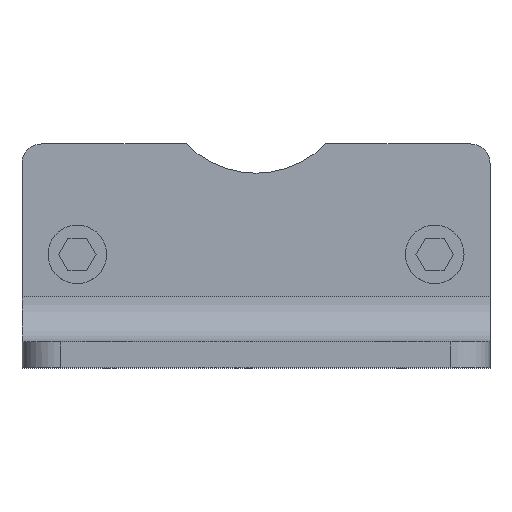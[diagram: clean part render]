
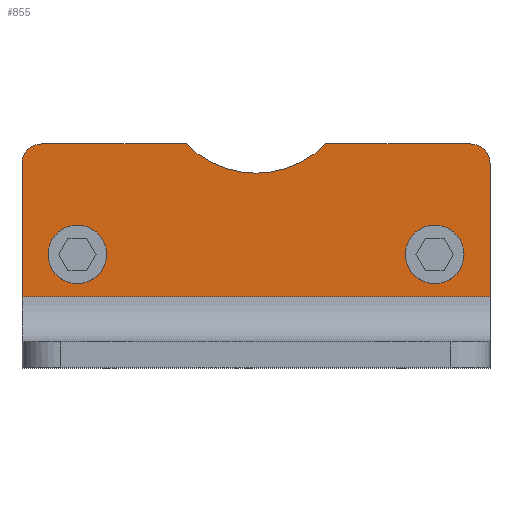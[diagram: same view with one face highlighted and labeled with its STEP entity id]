
A CAD part, top view. The second image highlights one B-rep face of the part: STEP entity #855.
In plain terms, the highlighted planar face has unit normal (0, 0, 1).
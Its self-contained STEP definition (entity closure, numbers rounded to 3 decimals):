
#17=DIRECTION('',(0.,-1.,0.));
#18=VECTOR('',#17,41.);
#19=CARTESIAN_POINT('',(-72.,-27.,8.));
#20=LINE('',#19,#18);
#117=CARTESIAN_POINT('',(55.,-55.,8.));
#118=DIRECTION('',(0.,0.,1.));
#119=DIRECTION('',(-1.,0.,0.));
#120=AXIS2_PLACEMENT_3D('',#117,#118,#119);
#122=CARTESIAN_POINT('',(55.,-55.,8.));
#123=DIRECTION('',(0.,0.,1.));
#124=DIRECTION('',(1.,0.,0.));
#125=AXIS2_PLACEMENT_3D('',#122,#123,#124);
#127=CARTESIAN_POINT('',(-55.,-55.,8.));
#128=DIRECTION('',(0.,0.,-1.));
#129=DIRECTION('',(0.,-1.,0.));
#130=AXIS2_PLACEMENT_3D('',#127,#128,#129);
#132=CARTESIAN_POINT('',(-55.,-55.,8.));
#133=DIRECTION('',(0.,0.,-1.));
#134=DIRECTION('',(0.,1.,0.));
#135=AXIS2_PLACEMENT_3D('',#132,#133,#134);
#137=CARTESIAN_POINT('',(66.,-27.,8.));
#138=DIRECTION('',(0.,0.,1.));
#139=DIRECTION('',(1.,0.,0.));
#140=AXIS2_PLACEMENT_3D('',#137,#138,#139);
#142=DIRECTION('',(1.,0.,0.));
#143=VECTOR('',#142,144.);
#144=CARTESIAN_POINT('',(-72.,-68.,8.));
#145=LINE('',#144,#143);
#146=CARTESIAN_POINT('',(-66.,-27.,8.));
#147=DIRECTION('',(0.,0.,1.));
#148=DIRECTION('',(0.,1.,0.));
#149=AXIS2_PLACEMENT_3D('',#146,#147,#148);
#151=DIRECTION('',(1.,0.,0.));
#152=VECTOR('',#151,44.576);
#153=CARTESIAN_POINT('',(-66.,-21.,8.));
#154=LINE('',#153,#152);
#155=CARTESIAN_POINT('',(0.,0.,8.));
#156=DIRECTION('',(0.,0.,-1.));
#157=DIRECTION('',(0.714,-0.7,0.));
#158=AXIS2_PLACEMENT_3D('',#155,#156,#157);
#160=DIRECTION('',(1.,0.,0.));
#161=VECTOR('',#160,44.576);
#162=CARTESIAN_POINT('',(21.424,-21.,8.));
#163=LINE('',#162,#161);
#369=DIRECTION('',(0.,-1.,0.));
#370=VECTOR('',#369,41.);
#371=CARTESIAN_POINT('',(72.,-27.,8.));
#372=LINE('',#371,#370);
#523=CARTESIAN_POINT('',(21.424,-21.,8.));
#525=VERTEX_POINT('',#523);
#527=CARTESIAN_POINT('',(-21.424,-21.,8.));
#529=VERTEX_POINT('',#527);
#535=CARTESIAN_POINT('',(-72.,-68.,8.));
#536=CARTESIAN_POINT('',(72.,-68.,8.));
#537=VERTEX_POINT('',#535);
#538=VERTEX_POINT('',#536);
#547=CARTESIAN_POINT('',(46.,-55.,8.));
#548=CARTESIAN_POINT('',(64.,-55.,8.));
#549=VERTEX_POINT('',#547);
#550=VERTEX_POINT('',#548);
#559=CARTESIAN_POINT('',(-55.,-64.,8.));
#560=CARTESIAN_POINT('',(-55.,-46.,8.));
#561=VERTEX_POINT('',#559);
#562=VERTEX_POINT('',#560);
#587=CARTESIAN_POINT('',(72.,-27.,8.));
#588=CARTESIAN_POINT('',(66.,-21.,8.));
#589=VERTEX_POINT('',#587);
#590=VERTEX_POINT('',#588);
#599=CARTESIAN_POINT('',(-66.,-21.,8.));
#600=VERTEX_POINT('',#599);
#601=CARTESIAN_POINT('',(-72.,-27.,8.));
#602=VERTEX_POINT('',#601);
#823=CARTESIAN_POINT('',(-72.,-21.,8.));
#824=DIRECTION('',(0.,0.,1.));
#825=DIRECTION('',(0.,-1.,0.));
#826=AXIS2_PLACEMENT_3D('',#823,#824,#825);
#827=PLANE('',#826);
#828=ORIENTED_EDGE('',*,*,#813,.F.);
#830=ORIENTED_EDGE('',*,*,#829,.T.);
#832=ORIENTED_EDGE('',*,*,#831,.F.);
#833=ORIENTED_EDGE('',*,*,#666,.F.);
#834=ORIENTED_EDGE('',*,*,#692,.F.);
#836=ORIENTED_EDGE('',*,*,#835,.T.);
#838=ORIENTED_EDGE('',*,*,#837,.F.);
#840=ORIENTED_EDGE('',*,*,#839,.T.);
#841=EDGE_LOOP('',(#828,#830,#832,#833,#834,#836,#838,#840));
#842=FACE_OUTER_BOUND('',#841,.F.);
#844=ORIENTED_EDGE('',*,*,#843,.F.);
#846=ORIENTED_EDGE('',*,*,#845,.F.);
#847=EDGE_LOOP('',(#844,#846));
#848=FACE_BOUND('',#847,.F.);
#850=ORIENTED_EDGE('',*,*,#849,.T.);
#852=ORIENTED_EDGE('',*,*,#851,.T.);
#853=EDGE_LOOP('',(#850,#852));
#854=FACE_BOUND('',#853,.F.);
#855=ADVANCED_FACE('',(#842,#848,#854),#827,.T.);
#121=CIRCLE('',#120,9.);
#126=CIRCLE('',#125,9.);
#131=CIRCLE('',#130,9.);
#136=CIRCLE('',#135,9.);
#141=CIRCLE('',#140,6.);
#150=CIRCLE('',#149,6.);
#159=CIRCLE('',#158,30.);
#666=EDGE_CURVE('',#602,#537,#20,.T.);
#692=EDGE_CURVE('',#600,#602,#150,.T.);
#813=EDGE_CURVE('',#589,#590,#141,.T.);
#829=EDGE_CURVE('',#589,#538,#372,.T.);
#831=EDGE_CURVE('',#537,#538,#145,.T.);
#835=EDGE_CURVE('',#600,#529,#154,.T.);
#837=EDGE_CURVE('',#525,#529,#159,.T.);
#839=EDGE_CURVE('',#525,#590,#163,.T.);
#843=EDGE_CURVE('',#561,#562,#131,.T.);
#845=EDGE_CURVE('',#562,#561,#136,.T.);
#849=EDGE_CURVE('',#549,#550,#121,.T.);
#851=EDGE_CURVE('',#550,#549,#126,.T.);
